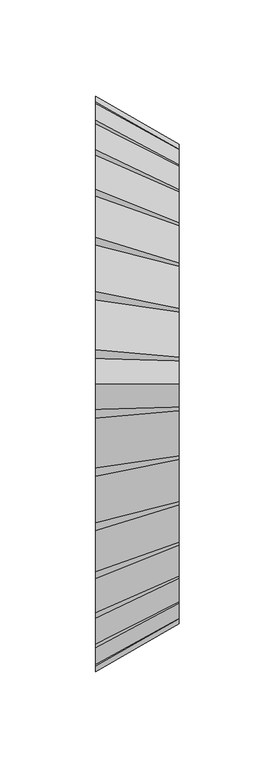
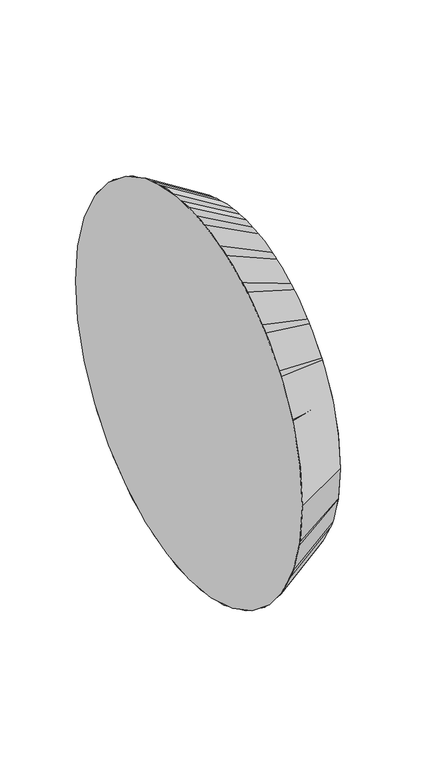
"""IFC4 building model written with IfcOpenShell, lengths in millimetres: duct fitting geometry, magicirc_reduction_001 : magicirc_reduction_001."""

from ifc_helpers import new_model, si_unit, frame, origin, place, context, project, spatial, polyline, circle_curve, source, transform, mapped, element, save
from ifc_brep_helpers import plane_surface, revolved_surface, advanced_brep


def duct_fitting_dcc4d90b(model_context):
    return source(origin(), model_context, "Body", "AdvancedBrep", [
        advanced_brep(
        [(43.3012702, -125.0, 0.0), (43.3012702, 0.0, -125.0), (43.3012702, 125.0, 0.0), (43.3012702, 0.0, 125.0), (0.0, -150.0, 0.0), (0.0, 0.0, 150.0), (0.0, 150.0, 0.0), (0.0, 0.0, -150.0)],
        [
            (0, 1, circle_curve(frame((43.3012702, 0.0, 0.0), z_axis=(1.0, 0.0, 0.0), x_axis=(0.0, -1.0, 0.0)), 125.0)),
            (1, 2, circle_curve(frame((43.3012702, 0.0, 0.0), z_axis=(1.0, 0.0, 0.0), x_axis=(0.0, 0.0, -1.0)), 125.0)),
            (2, 3, circle_curve(frame((43.3012702, 0.0, 0.0), z_axis=(1.0, 0.0, 0.0), x_axis=(0.0, 1.0, 0.0)), 125.0)),
            (3, 0, circle_curve(frame((43.3012702, 0.0, 0.0), z_axis=(1.0, 0.0, 0.0), x_axis=(0.0, 0.0, 1.0)), 125.0)),
            (4, 5, circle_curve(frame((0.0, 0.0, 0.0), z_axis=(-1.0, 0.0, 0.0), x_axis=(0.0, 0.0, 1.0)), 150.0)),
            (5, 6, circle_curve(frame((0.0, 0.0, 0.0), z_axis=(-1.0, 0.0, 0.0), x_axis=(0.0, 1.0, 0.0)), 150.0)),
            (6, 7, circle_curve(frame((0.0, 0.0, 0.0), z_axis=(-1.0, 0.0, 0.0), x_axis=(0.0, 0.0, -1.0)), 150.0)),
            (7, 4, circle_curve(frame((0.0, 0.0, 0.0), z_axis=(-1.0, 0.0, 0.0), x_axis=(0.0, -1.0, 0.0)), 150.0)),
            (7, 1),
            (0, 4),
            (6, 2),
            (5, 3),
        ],
        [
            plane_surface(frame((43.3012702, 0.0, 0.0), z_axis=(1.0, 0.0, 0.0), x_axis=(0.0, 0.0, -1.0))),
            plane_surface(frame((0.0, 0.0, 0.0), z_axis=(-1.0, 0.0, 0.0), x_axis=(0.0, 0.0, -1.0))),
            revolved_surface(polyline([(43.301270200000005, -124.99999999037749, 0.0), (0.0, -150.0, 0.0)]), (259.8076211, 0.0, 0.0), (-1.0, 0.0, 0.0)),
            revolved_surface(polyline([(43.301270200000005, 0.0, -124.99999999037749), (0.0, 0.0, -150.0)]), (259.8076211, 0.0, 0.0), (-1.0, 0.0, 0.0)),
            revolved_surface(polyline([(43.301270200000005, 124.99999999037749, 0.0), (0.0, 150.0, 0.0)]), (259.8076211, 0.0, 0.0), (-1.0, 0.0, 0.0)),
            revolved_surface(polyline([(43.301270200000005, 0.0, 124.99999999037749), (0.0, 0.0, 150.0)]), (259.8076211, 0.0, 0.0), (-1.0, 0.0, 0.0)),
        ],
        [
            (0, [[1, 2, 3, 4]]),
            (1, [[5, 6, 7, 8]]),
            (2, [[-8, 9, -1, 10]]),
            (3, [[-7, 11, -2, -9]]),
            (4, [[-6, 12, -3, -11]]),
            (5, [[-5, -10, -4, -12]]),
        ],
    ),
        advanced_brep(
        [(0.0, -150.0, 0.0), (0.0, 0.0, 150.0), (0.0, 150.0, 0.0), (0.0, 0.0, -150.0), (43.3012702, -125.0, 0.0), (43.3012702, 0.0, -125.0), (43.3012702, 125.0, 0.0), (43.3012702, 0.0, 125.0)],
        [
            (0, 1, circle_curve(frame((0.0, 0.0, 0.0), z_axis=(-1.0, 0.0, 0.0), x_axis=(0.0, -1.0, 0.0)), 150.0)),
            (1, 2, circle_curve(frame((0.0, 0.0, 0.0), z_axis=(-1.0, 0.0, 0.0), x_axis=(0.0, 0.0, 1.0)), 150.0)),
            (2, 3, circle_curve(frame((0.0, 0.0, 0.0), z_axis=(-1.0, 0.0, 0.0), x_axis=(0.0, 1.0, 0.0)), 150.0)),
            (3, 0, circle_curve(frame((0.0, 0.0, 0.0), z_axis=(-1.0, 0.0, 0.0), x_axis=(0.0, 0.0, -1.0)), 150.0)),
            (4, 5, circle_curve(frame((43.3012702, 0.0, 0.0), z_axis=(1.0, 0.0, 0.0), x_axis=(0.0, 0.0, -1.0)), 125.0)),
            (5, 6, circle_curve(frame((43.3012702, 0.0, 0.0), z_axis=(1.0, 0.0, 0.0), x_axis=(0.0, 1.0, 0.0)), 125.0)),
            (6, 7, circle_curve(frame((43.3012702, 0.0, 0.0), z_axis=(1.0, 0.0, 0.0), x_axis=(0.0, 0.0, 1.0)), 125.0)),
            (7, 4, circle_curve(frame((43.3012702, 0.0, 0.0), z_axis=(1.0, 0.0, 0.0), x_axis=(0.0, -1.0, 0.0)), 125.0)),
            (7, 1),
            (0, 4),
            (6, 2),
            (5, 3),
        ],
        [
            plane_surface(frame((0.0, 0.0, 0.0), z_axis=(-1.0, 0.0, 0.0), x_axis=(0.0, 0.0, -1.0))),
            plane_surface(frame((43.3012702, 0.0, 0.0), z_axis=(1.0, 0.0, 0.0), x_axis=(0.0, 0.0, -1.0))),
            revolved_surface(polyline([(43.301270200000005, 0.0, 124.99999999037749), (0.0, 0.0, 150.0)]), (259.8076211, 0.0, 0.0), (-1.0, 0.0, 0.0)),
            revolved_surface(polyline([(43.301270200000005, 124.99999999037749, 0.0), (0.0, 150.0, 0.0)]), (259.8076211, 0.0, 0.0), (-1.0, 0.0, 0.0)),
            revolved_surface(polyline([(43.301270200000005, 0.0, -124.99999999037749), (0.0, 0.0, -150.0)]), (259.8076211, 0.0, 0.0), (-1.0, 0.0, 0.0)),
            revolved_surface(polyline([(43.301270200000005, -124.99999999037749, 0.0), (0.0, -150.0, 0.0)]), (259.8076211, 0.0, 0.0), (-1.0, 0.0, 0.0)),
        ],
        [
            (0, [[1, 2, 3, 4]]),
            (1, [[5, 6, 7, 8]]),
            (2, [[-8, 9, -1, 10]]),
            (3, [[-7, 11, -2, -9]]),
            (4, [[-6, 12, -3, -11]]),
            (5, [[-5, -10, -4, -12]]),
        ],
    ),
        advanced_brep(
        [(43.3012702, -125.0, 0.0), (43.3012702, 125.0, 0.0), (0.0, -150.0, 0.0), (0.0, 150.0, 0.0)],
        [
            (0, 1, circle_curve(frame((43.3012702, 0.0, 0.0), z_axis=(1.0, 0.0, 0.0), x_axis=(0.0, -1.0, 0.0)), 125.0)),
            (1, 0, circle_curve(frame((43.3012702, 0.0, 0.0), z_axis=(1.0, 0.0, 0.0), x_axis=(0.0, 1.0, 0.0)), 125.0)),
            (2, 3, circle_curve(frame((0.0, 0.0, 0.0), z_axis=(-1.0, 0.0, 0.0), x_axis=(0.0, 1.0, 0.0)), 150.0)),
            (3, 2, circle_curve(frame((0.0, 0.0, 0.0), z_axis=(-1.0, 0.0, 0.0), x_axis=(0.0, -1.0, 0.0)), 150.0)),
            (3, 1),
            (0, 2),
        ],
        [
            plane_surface(frame((43.3012702, 0.0, 0.0), z_axis=(1.0, 0.0, 0.0), x_axis=(0.0, 0.0, -1.0))),
            plane_surface(frame((0.0, 0.0, 0.0), z_axis=(-1.0, 0.0, 0.0), x_axis=(0.0, 0.0, -1.0))),
            revolved_surface(polyline([(43.301270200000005, -124.99999999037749, 0.0), (0.0, -150.0, 0.0)]), (259.8076211, 0.0, 0.0), (-1.0, 0.0, 0.0)),
            revolved_surface(polyline([(43.301270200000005, 124.99999999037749, 0.0), (0.0, 150.0, 0.0)]), (259.8076211, 0.0, 0.0), (-1.0, 0.0, 0.0)),
        ],
        [
            (0, [[1, 2]]),
            (1, [[3, 4]]),
            (2, [[-4, 5, -1, 6]]),
            (3, [[-3, -6, -2, -5]]),
        ],
    ),
    ])


if __name__ == "__main__":
    model = new_model("IFC4")
    model_context = context("Model", 3, world=origin())
    ifc_project = project(units=[si_unit("LENGTHUNIT", "METRE", prefix="MILLI")], contexts=[model_context])
    site = spatial("IfcSite", under=ifc_project)
    building = spatial("IfcBuilding", under=site)
    placement = place(None, origin())
    duct_fitting_shape = duct_fitting_dcc4d90b(model_context)
    element("IfcDuctFitting", 1, ObjectType="magicirc_reduction_001 : magicirc_reduction_001", at=placement, inside=building, context=model_context, shape_type="MappedRepresentation", body=[
        mapped(duct_fitting_shape, transform((0.0, 0.0, 0.0), x_axis=(1.0, 0.0, 0.0), y_axis=(0.0, 1.0, 0.0), z_axis=(0.0, 0.0, 1.0))),
    ])
    save(model, "model.ifc")
